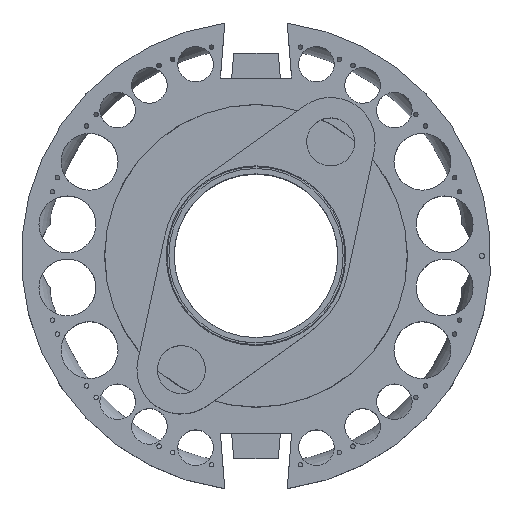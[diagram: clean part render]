
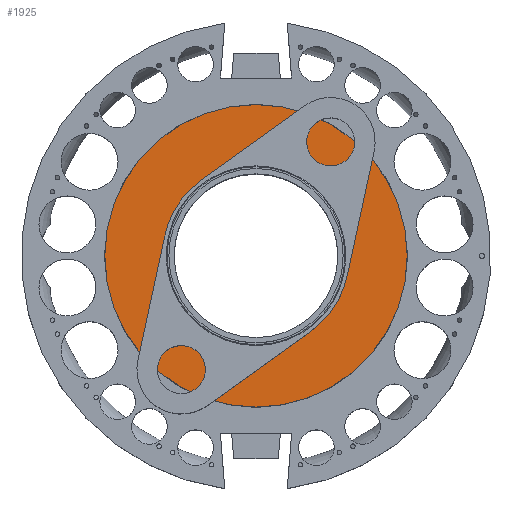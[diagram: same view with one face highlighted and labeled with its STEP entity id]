
A CAD part, top view. The second image highlights one B-rep face of the part: STEP entity #1925.
In plain terms, the highlighted planar face has unit normal (0, 0, 1).
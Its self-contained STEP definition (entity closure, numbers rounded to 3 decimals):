
#1925=ADVANCED_FACE('',(#4357,#4358),#4359,.T.);
#4357=FACE_OUTER_BOUND('',#7162,.T.);
#4358=FACE_BOUND('',#7163,.T.);
#4359=PLANE('',#7164);
#7162=EDGE_LOOP('',(#13378,#13379));
#7163=EDGE_LOOP('',(#13380,#13381));
#7164=AXIS2_PLACEMENT_3D('',#13382,#13383,#13384);
#13378=ORIENTED_EDGE('',*,*,#18529,.F.);
#13379=ORIENTED_EDGE('',*,*,#16222,.F.);
#13380=ORIENTED_EDGE('',*,*,#18747,.T.);
#13381=ORIENTED_EDGE('',*,*,#18748,.F.);
#13382=CARTESIAN_POINT('',(67.,0.,85.));
#13383=DIRECTION('',(0.,0.,1.0));
#13384=DIRECTION('',(-1.0,0.,0.));
#16222=EDGE_CURVE('',#19440,#19415,#19442,.T.);
#18529=EDGE_CURVE('',#19415,#19440,#23076,.T.);
#18747=EDGE_CURVE('',#23345,#23346,#23347,.T.);
#18748=EDGE_CURVE('',#23345,#23346,#23348,.T.);
#19415=VERTEX_POINT('',#24331);
#19440=VERTEX_POINT('',#24463);
#19442=CIRCLE('',#24466,85.);
#23076=CIRCLE('',#36303,85.);
#23345=VERTEX_POINT('',#36796);
#23346=VERTEX_POINT('',#36797);
#23347=CIRCLE('',#36798,49.);
#23348=CIRCLE('',#36799,49.);
#24331=CARTESIAN_POINT('',(85.,0.0,85.));
#24463=CARTESIAN_POINT('',(-85.,0.,85.));
#24466=AXIS2_PLACEMENT_3D('',#38108,#38109,#38110);
#36303=AXIS2_PLACEMENT_3D('',#41008,#41009,#41010);
#36796=CARTESIAN_POINT('',(49.,0.,85.));
#36797=CARTESIAN_POINT('',(-49.,0.,85.));
#36798=AXIS2_PLACEMENT_3D('',#41259,#41260,#41261);
#36799=AXIS2_PLACEMENT_3D('',#41262,#41263,#41264);
#38108=CARTESIAN_POINT('',(0.0,0.0,85.));
#38109=DIRECTION('',(0.,0.,-1.0));
#38110=DIRECTION('',(1.0,0.,0.));
#41008=CARTESIAN_POINT('',(0.0,0.0,85.));
#41009=DIRECTION('',(0.,0.,-1.0));
#41010=DIRECTION('',(1.0,0.,0.));
#41259=CARTESIAN_POINT('',(0.0,0.0,85.));
#41260=DIRECTION('',(0.,0.,-1.0));
#41261=DIRECTION('',(1.0,0.,0.));
#41262=CARTESIAN_POINT('',(0.0,0.0,85.));
#41263=DIRECTION('',(0.,0.,1.0));
#41264=DIRECTION('',(1.0,0.,0.));
